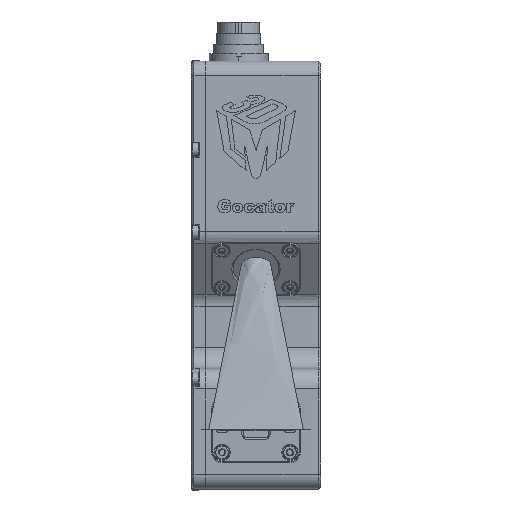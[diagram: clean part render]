
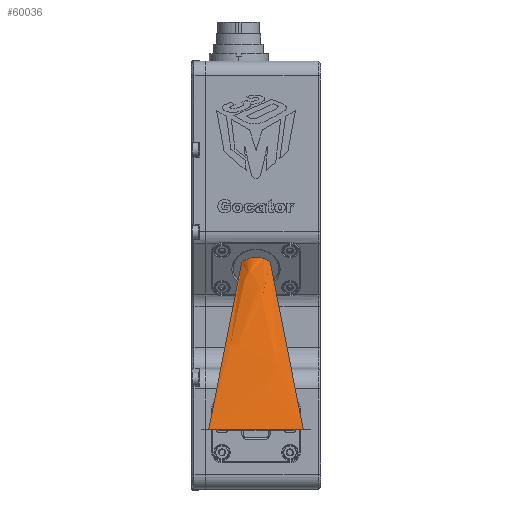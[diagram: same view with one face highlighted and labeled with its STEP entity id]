
A CAD part, top view. The second image highlights one B-rep face of the part: STEP entity #60036.
In plain terms, the highlighted free-form (B-spline) face has degree [3, 1] with [18, 2] control points.
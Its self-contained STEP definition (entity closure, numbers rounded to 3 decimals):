
#3245 = DIRECTION ( 'NONE',  ( -0.103, 0.524, -0.845 ) ) ;
#4153 = CARTESIAN_POINT ( 'NONE',  ( 4.297, 57.318, -6.519 ) ) ;
#4461 = CARTESIAN_POINT ( 'NONE',  ( -2.442, 58.196, -5.909 ) ) ;
#6357 = CARTESIAN_POINT ( 'NONE',  ( -2.667, 0., 85. ) ) ;
#6400 = B_SPLINE_SURFACE_WITH_KNOTS ( 'NONE', 3, 1, ( 
 ( #21066, #83807 ),
 ( #34921, #56236 ),
 ( #28514, #62763 ),
 ( #13100, #41367 ),
 ( #70210, #14034 ),
 ( #20450, #84705 ),
 ( #63049, #55915 ),
 ( #6357, #63340 ),
 ( #77016, #63692 ),
 ( #91441, #41671 ),
 ( #70527, #6961 ),
 ( #34624, #62461 ),
 ( #77616, #28228 ),
 ( #42611, #90812 ),
 ( #35236, #69898 ),
 ( #42298, #91120 ),
 ( #48813, #13723 ),
 ( #20752, #84106 ) ),
 .UNSPECIFIED., .F., .F., .F.,
 ( 4, 2, 2, 2, 2, 2, 2, 2, 4 ),
 ( 2, 2 ),
 ( 0., 0.125, 0.25, 0.375, 0.5, 0.625, 0.75, 0.875, 1. ),
 ( 0., 1. ),
 .UNSPECIFIED. ) ;
#6961 = CARTESIAN_POINT ( 'NONE',  ( 0.815, 65.802, -16.984 ) ) ;
#10257 = VECTOR ( 'NONE', #29013, 1000. ) ;
#11237 = CARTESIAN_POINT ( 'NONE',  ( 2.442, 58.196, -5.909 ) ) ;
#12432 = CARTESIAN_POINT ( 'NONE',  ( -4.583, 57.121, -6.655 ) ) ;
#13100 = CARTESIAN_POINT ( 'NONE',  ( -10.667, 0., 85. ) ) ;
#13723 = CARTESIAN_POINT ( 'NONE',  ( 3.327, 64.236, -18.071 ) ) ;
#14034 = CARTESIAN_POINT ( 'NONE',  ( -2.513, 65.089, -17.479 ) ) ;
#16854 = CARTESIAN_POINT ( 'NONE',  ( 0., 0., 85. ) ) ;
#17648 = CARTESIAN_POINT ( 'NONE',  ( 3.268, 57.879, -6.129 ) ) ;
#17770 = DIRECTION ( 'NONE',  ( 1., 0., 0. ) ) ;
#20031 = B_SPLINE_CURVE_WITH_KNOTS ( 'NONE', 3,
 ( #52444, #53363, #4153, #81299, #17648, #11237, #24472, #39449, #74436, #80985, #31554, #88933, #4461, #24791, #31843, #68879, #12432, #20054 ),
 .UNSPECIFIED., .F., .F.,
 ( 4, 2, 2, 2, 2, 2, 2, 2, 4 ),
 ( 0., 0.001, 0.003, 0.004, 0.005, 0.007, 0.008, 0.009, 0.011 ),
 .UNSPECIFIED. ) ;
#20054 = CARTESIAN_POINT ( 'NONE',  ( -4.835, 56.93, -6.788 ) ) ;
#20092 = EDGE_CURVE ( 'NONE', #21575, #76502, #20031, .T. ) ;
#20450 = CARTESIAN_POINT ( 'NONE',  ( -6.667, 0., 85. ) ) ;
#20543 = ORIENTED_EDGE ( 'NONE', *, *, #73629, .T. ) ;
#20752 = CARTESIAN_POINT ( 'NONE',  ( 16., 0., 85. ) ) ;
#21066 = CARTESIAN_POINT ( 'NONE',  ( -16., 0., 85. ) ) ;
#21575 = VERTEX_POINT ( 'NONE', #38546 ) ;
#22092 = VERTEX_POINT ( 'NONE', #25659 ) ;
#24472 = CARTESIAN_POINT ( 'NONE',  ( 1.986, 58.33, -5.816 ) ) ;
#24791 = CARTESIAN_POINT ( 'NONE',  ( -3.268, 57.879, -6.129 ) ) ;
#25659 = CARTESIAN_POINT ( 'NONE',  ( 16., 0., 85. ) ) ;
#26429 = VECTOR ( 'NONE', #17770, 1000. ) ;
#26984 = EDGE_CURVE ( 'NONE', #76502, #47222, #29001, .T. ) ;
#28228 = CARTESIAN_POINT ( 'NONE',  ( 1.916, 65.445, -17.232 ) ) ;
#28514 = CARTESIAN_POINT ( 'NONE',  ( -13.333, 0., 85. ) ) ;
#29001 = LINE ( 'NONE', #35721, #10257 ) ;
#29013 = DIRECTION ( 'NONE',  ( -0.103, -0.524, 0.845 ) ) ;
#29808 = LINE ( 'NONE', #16854, #26429 ) ;
#31554 = CARTESIAN_POINT ( 'NONE',  ( -1.02, 58.513, -5.689 ) ) ;
#31843 = CARTESIAN_POINT ( 'NONE',  ( -3.64, 57.697, -6.255 ) ) ;
#34624 = CARTESIAN_POINT ( 'NONE',  ( 5.333, 0., 85. ) ) ;
#34921 = CARTESIAN_POINT ( 'NONE',  ( -14.667, 0., 85. ) ) ;
#35236 = CARTESIAN_POINT ( 'NONE',  ( 10.667, 0., 85. ) ) ;
#35721 = CARTESIAN_POINT ( 'NONE',  ( -9.722, 32.01, 33.39 ) ) ;
#38047 = ORIENTED_EDGE ( 'NONE', *, *, #20092, .T. ) ;
#38546 = CARTESIAN_POINT ( 'NONE',  ( 4.835, 56.93, -6.788 ) ) ;
#39449 = CARTESIAN_POINT ( 'NONE',  ( 1.02, 58.513, -5.689 ) ) ;
#41367 = CARTESIAN_POINT ( 'NONE',  ( -2.765, 64.883, -17.622 ) ) ;
#41671 = CARTESIAN_POINT ( 'NONE',  ( 0.408, 65.857, -16.946 ) ) ;
#42298 = CARTESIAN_POINT ( 'NONE',  ( 13.333, 0., 85. ) ) ;
#42611 = CARTESIAN_POINT ( 'NONE',  ( 9.333, 0., 85. ) ) ;
#47222 = VERTEX_POINT ( 'NONE', #78933 ) ;
#48813 = CARTESIAN_POINT ( 'NONE',  ( 14.667, 0., 85. ) ) ;
#49064 = LINE ( 'NONE', #57825, #75652 ) ;
#52444 = CARTESIAN_POINT ( 'NONE',  ( 4.835, 56.93, -6.788 ) ) ;
#53363 = CARTESIAN_POINT ( 'NONE',  ( 4.583, 57.121, -6.655 ) ) ;
#55915 = CARTESIAN_POINT ( 'NONE',  ( -1.57, 65.595, -17.128 ) ) ;
#56236 = CARTESIAN_POINT ( 'NONE',  ( -3.327, 64.236, -18.071 ) ) ;
#57825 = CARTESIAN_POINT ( 'NONE',  ( 9.722, 32.01, 33.39 ) ) ;
#58434 = EDGE_LOOP ( 'NONE', ( #20543, #62479, #38047, #80266 ) ) ;
#60036 = ADVANCED_FACE ( 'NONE', ( #85349 ), #6400, .T. ) ;
#62461 = CARTESIAN_POINT ( 'NONE',  ( 1.57, 65.595, -17.128 ) ) ;
#62479 = ORIENTED_EDGE ( 'NONE', *, *, #65484, .T. ) ;
#62763 = CARTESIAN_POINT ( 'NONE',  ( -3.171, 64.457, -17.918 ) ) ;
#63049 = CARTESIAN_POINT ( 'NONE',  ( -5.333, 0., 85. ) ) ;
#63340 = CARTESIAN_POINT ( 'NONE',  ( -0.815, 65.802, -16.984 ) ) ;
#63692 = CARTESIAN_POINT ( 'NONE',  ( -0.408, 65.857, -16.946 ) ) ;
#65484 = EDGE_CURVE ( 'NONE', #22092, #21575, #49064, .T. ) ;
#68879 = CARTESIAN_POINT ( 'NONE',  ( -4.297, 57.318, -6.519 ) ) ;
#69898 = CARTESIAN_POINT ( 'NONE',  ( 2.765, 64.883, -17.622 ) ) ;
#70210 = CARTESIAN_POINT ( 'NONE',  ( -9.333, 0., 85. ) ) ;
#70527 = CARTESIAN_POINT ( 'NONE',  ( 2.667, 0., 85. ) ) ;
#71355 = CARTESIAN_POINT ( 'NONE',  ( -4.835, 56.93, -6.788 ) ) ;
#73629 = EDGE_CURVE ( 'NONE', #47222, #22092, #29808, .T. ) ;
#74436 = CARTESIAN_POINT ( 'NONE',  ( 0.51, 58.563, -5.654 ) ) ;
#75652 = VECTOR ( 'NONE', #3245, 1000. ) ;
#76502 = VERTEX_POINT ( 'NONE', #71355 ) ;
#77016 = CARTESIAN_POINT ( 'NONE',  ( -1.333, 0., 85. ) ) ;
#77616 = CARTESIAN_POINT ( 'NONE',  ( 6.667, 0., 85. ) ) ;
#78933 = CARTESIAN_POINT ( 'NONE',  ( -16., 0., 85. ) ) ;
#80266 = ORIENTED_EDGE ( 'NONE', *, *, #26984, .T. ) ;
#80985 = CARTESIAN_POINT ( 'NONE',  ( -0.51, 58.563, -5.654 ) ) ;
#81299 = CARTESIAN_POINT ( 'NONE',  ( 3.64, 57.697, -6.255 ) ) ;
#83807 = CARTESIAN_POINT ( 'NONE',  ( -3.444, 64.02, -18.221 ) ) ;
#84106 = CARTESIAN_POINT ( 'NONE',  ( 3.444, 64.02, -18.221 ) ) ;
#84705 = CARTESIAN_POINT ( 'NONE',  ( -1.916, 65.445, -17.232 ) ) ;
#85349 = FACE_OUTER_BOUND ( 'NONE', #58434, .T. ) ;
#88933 = CARTESIAN_POINT ( 'NONE',  ( -1.986, 58.33, -5.816 ) ) ;
#90812 = CARTESIAN_POINT ( 'NONE',  ( 2.513, 65.089, -17.479 ) ) ;
#91120 = CARTESIAN_POINT ( 'NONE',  ( 3.171, 64.457, -17.918 ) ) ;
#91441 = CARTESIAN_POINT ( 'NONE',  ( 1.333, 0., 85. ) ) ;
